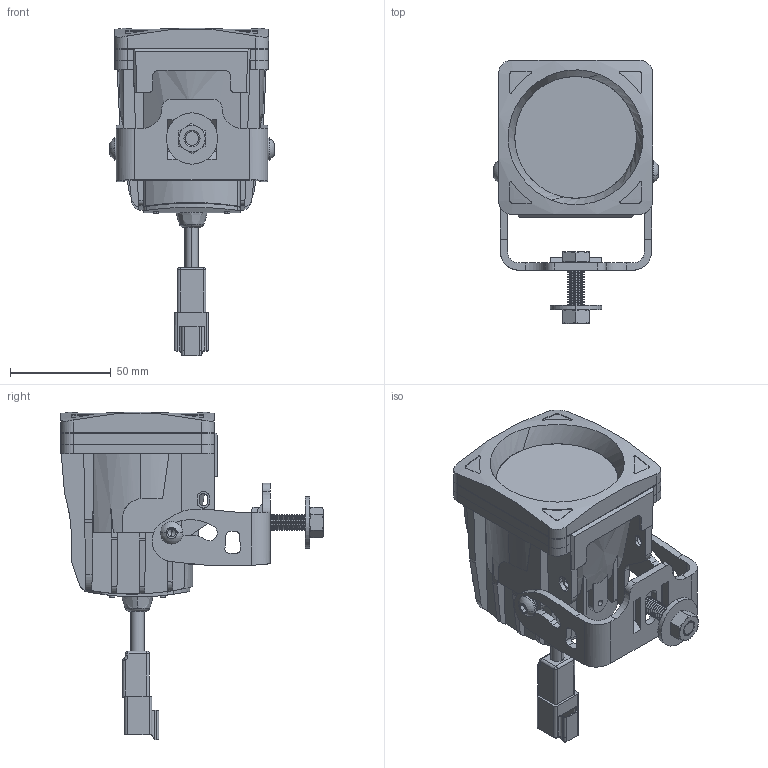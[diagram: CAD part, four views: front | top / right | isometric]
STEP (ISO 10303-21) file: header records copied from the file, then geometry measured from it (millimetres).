
FILE_DESCRIPTION (( 'STEP AP214' ), '1' );
FILE_NAME ('LEDP1X10WRE LED.STEP', '2014-12-05T21:37:26', ( '' ), ( '' ), 'SwSTEP 2.0', 'SolidWorks 2013', '' );
FILE_SCHEMA (( 'AUTOMOTIVE_DESIGN' ));
Length unit declared in the file: inch
Products named in the file (14): socket set screw flat point_ai_SSFLATSKT 0.099-48x0.375-HX-N; socket button head cap screw_ai_SBHCSCREW 0.25-20x0.25-HX-S; Cord Assembly; dt04-2p; Cord; Front Part; Bracket; Back; Body; LEDP1X10WRE LED; flat washer regular_am_B18.22M - Plain washer, 8 mm, regular; hex nut style 1_am_B18.2.4.1M - Hex nut, Style 1,  M8 x 1.25 --D-N; hex cap screw_am_B18.2.3.1M - Hex cap screw, M8 x 1.25 x 30 --30S; socket set screw flat point_ai_SSFLATSKT 0.112-40x0.3125-HX-N
Assembly tree (20 placements, depth 3):
  LEDP1X10WRE LED
    Body
    Back
    Bracket
    Front Part
    Cord Assembly
      Cord
      dt04-2p
    socket button head cap screw_ai_SBHCSCREW 0.25-20x0.25-HX-S  x2
    socket set screw flat point_ai_SSFLATSKT 0.099-48x0.375-HX-N  x4
    socket set screw flat point_ai_SSFLATSKT 0.112-40x0.3125-HX-N  x4
    hex cap screw_am_B18.2.3.1M - Hex cap screw, M8 x 1.25 x 30 --30S
    hex nut style 1_am_B18.2.4.1M - Hex nut, Style 1,  M8 x 1.25 --D-N
    flat washer regular_am_B18.22M - Plain washer, 8 mm, regular
Bounding box: 81.64 x 130.24 x 162.2 mm (x, y, z)
Volume: 379283.3 mm3; surface area: 101282.3 mm2
Topology: 23 solids, 23 shells, 981 faces, 2507 edges, 1584 vertices
Faces by surface type: plane 409, cylinder 302, cone 198, bspline 49, torus 13, sphere 10
Entity records: 29255 total; most frequent: CARTESIAN_POINT 7971, ORIENTED_EDGE 4358, DIRECTION 4236, EDGE_CURVE 2179, AXIS2_PLACEMENT_3D 1548, VERTEX_POINT 1393, LINE 1140, VECTOR 1140
